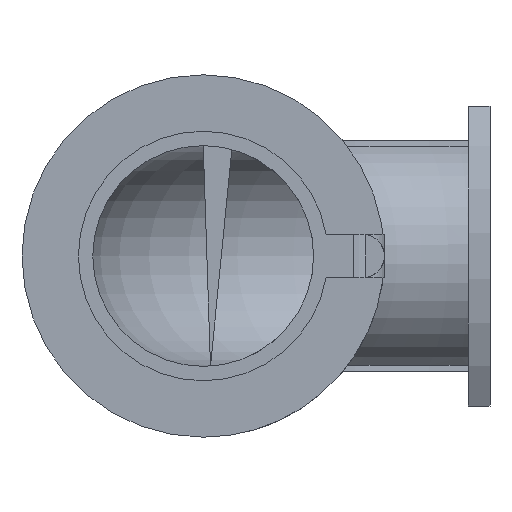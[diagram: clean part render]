
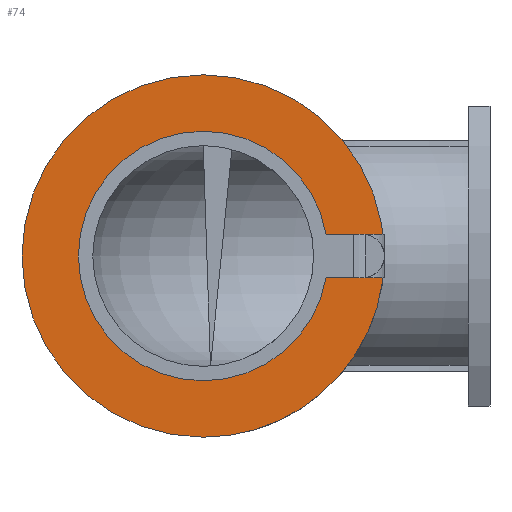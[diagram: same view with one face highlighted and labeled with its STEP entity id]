
A CAD part, front view. The second image highlights one B-rep face of the part: STEP entity #74.
In plain terms, the highlighted planar face has unit normal (0, -1, 0).
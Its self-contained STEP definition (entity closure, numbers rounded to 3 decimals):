
#74 = ADVANCED_FACE( '', ( #181 ), #182, .T. );
#181 = FACE_OUTER_BOUND( '', #333, .T. );
#182 = PLANE( '', #334 );
#333 = EDGE_LOOP( '', ( #502, #503, #504, #505, #506, #507 ) );
#334 = AXIS2_PLACEMENT_3D( '', #508, #509, #510 );
#502 = ORIENTED_EDGE( '', *, *, #824, .F. );
#503 = ORIENTED_EDGE( '', *, *, #825, .F. );
#504 = ORIENTED_EDGE( '', *, *, #826, .T. );
#505 = ORIENTED_EDGE( '', *, *, #827, .F. );
#506 = ORIENTED_EDGE( '', *, *, #828, .T. );
#507 = ORIENTED_EDGE( '', *, *, #803, .F. );
#508 = CARTESIAN_POINT( '', ( 52., -126.5, 0. ) );
#509 = DIRECTION( '', ( 0., -1., 0. ) );
#510 = DIRECTION( '', ( 0., 0., -1. ) );
#803 = EDGE_CURVE( '', #935, #938, #939, .T. );
#824 = EDGE_CURVE( '', #974, #935, #975, .T. );
#825 = EDGE_CURVE( '', #976, #974, #977, .T. );
#826 = EDGE_CURVE( '', #976, #976, #978, .T. );
#827 = EDGE_CURVE( '', #979, #976, #980, .T. );
#828 = EDGE_CURVE( '', #979, #938, #981, .T. );
#935 = VERTEX_POINT( '', #1132 );
#938 = VERTEX_POINT( '', #1136 );
#939 = CIRCLE( '', #1137, 52. );
#974 = VERTEX_POINT( '', #1299 );
#975 = LINE( '', #1300, #1301 );
#976 = VERTEX_POINT( '', #1302 );
#977 = CIRCLE( '', #1303, 9. );
#978 = CIRCLE( '', #1304, 75.5 );
#979 = VERTEX_POINT( '', #1305 );
#980 = CIRCLE( '', #1306, 9. );
#981 = LINE( '', #1307, #1308 );
#1132 = CARTESIAN_POINT( '', ( 51.215, -126.5, 9. ) );
#1136 = CARTESIAN_POINT( '', ( 51.215, -126.5, -9. ) );
#1137 = AXIS2_PLACEMENT_3D( '', #1907, #1908, #1909 );
#1299 = CARTESIAN_POINT( '', ( 66.5, -126.5, 9. ) );
#1300 = CARTESIAN_POINT( '', ( 62.75, -126.5, 9. ) );
#1301 = VECTOR( '', #1947, 1000. );
#1302 = CARTESIAN_POINT( '', ( 75.5, -126.5, 0. ) );
#1303 = AXIS2_PLACEMENT_3D( '', #1948, #1949, #1950 );
#1304 = AXIS2_PLACEMENT_3D( '', #1951, #1952, #1953 );
#1305 = CARTESIAN_POINT( '', ( 66.5, -126.5, -9. ) );
#1306 = AXIS2_PLACEMENT_3D( '', #1954, #1955, #1956 );
#1307 = CARTESIAN_POINT( '', ( 62.75, -126.5, -9. ) );
#1308 = VECTOR( '', #1957, 1000. );
#1907 = CARTESIAN_POINT( '', ( 0., -126.5, 0. ) );
#1908 = DIRECTION( '', ( 0., -1., 0. ) );
#1909 = DIRECTION( '', ( 0., 0., -1. ) );
#1947 = DIRECTION( '', ( -1., 0., 0. ) );
#1948 = CARTESIAN_POINT( '', ( 66.5, -126.5, 0. ) );
#1949 = DIRECTION( '', ( 0., -1., 0. ) );
#1950 = DIRECTION( '', ( 0., 0., -1. ) );
#1951 = CARTESIAN_POINT( '', ( 0., -126.5, 0. ) );
#1952 = DIRECTION( '', ( 0., -1., 0. ) );
#1953 = DIRECTION( '', ( 0., 0., -1. ) );
#1954 = CARTESIAN_POINT( '', ( 66.5, -126.5, 0. ) );
#1955 = DIRECTION( '', ( 0., -1., 0. ) );
#1956 = DIRECTION( '', ( 0., 0., -1. ) );
#1957 = DIRECTION( '', ( -1., 0., 0. ) );
